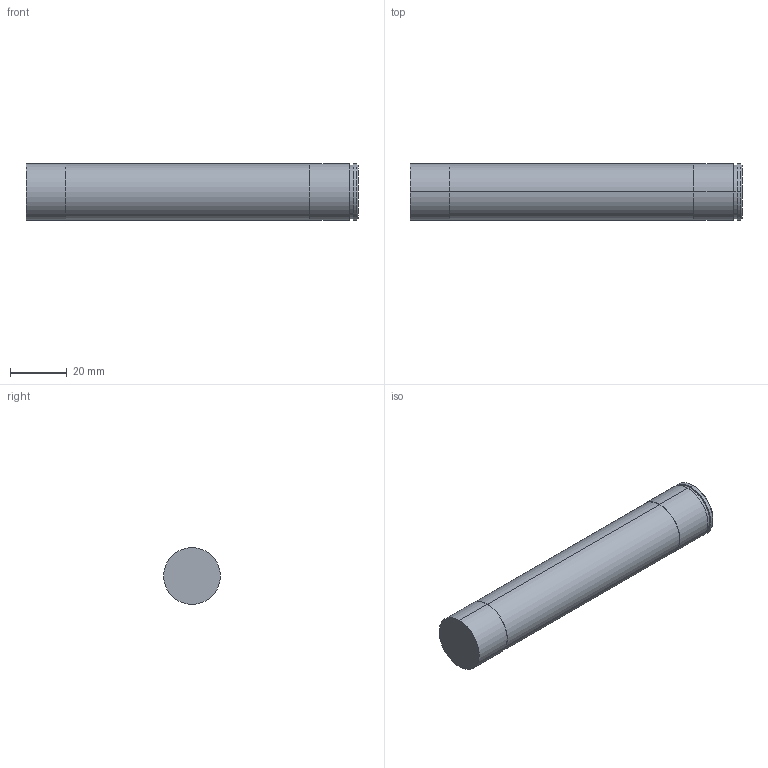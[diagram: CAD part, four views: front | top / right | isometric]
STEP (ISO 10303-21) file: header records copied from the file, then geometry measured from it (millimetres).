
FILE_DESCRIPTION (( 'STEP AP203' ), '1' );
FILE_NAME ('S7-20.STEP', '2002-08-16T10:51:38', ( '.' ), ( '.' ), 'SwSTEP 2.0', 'SolidWorks 2001340', '' );
FILE_SCHEMA (( 'CONFIG_CONTROL_DESIGN' ));
Length unit declared in the file: millimetre
Products named in the file (1): S7-20
Bounding box: 117 x 20 x 20 mm (x, y, z)
Volume: 36171.4 mm3; surface area: 7976.6 mm2
Topology: 1 solids, 1 shells, 18 faces, 34 edges, 22 vertices
Faces by surface type: cylinder 10, plane 6, cone 2
Entity records: 541 total; most frequent: DIRECTION 94, CARTESIAN_POINT 75, ORIENTED_EDGE 68, AXIS2_PLACEMENT_3D 41, EDGE_CURVE 34, EDGE_LOOP 22, VERTEX_POINT 22, CIRCLE 22
